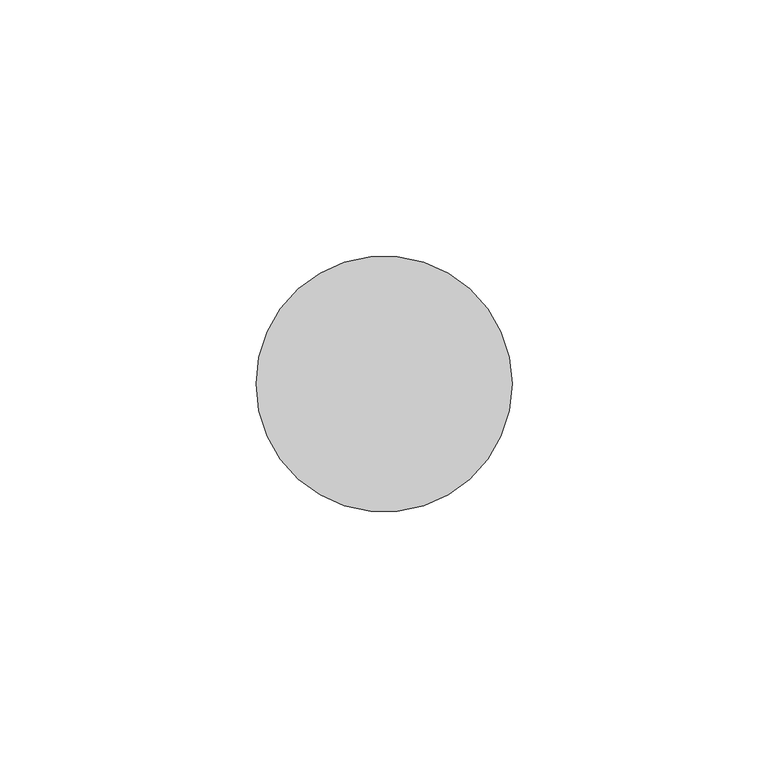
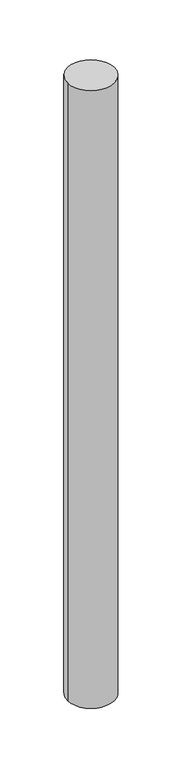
"""IFC4 building model written with IfcOpenShell, lengths in millimetres: member geometry, 圓形豎框 : 25mm 半徑."""

import ifcopenshell
import ifcopenshell.guid

model = None  # the IFC model being written
_history = None  # IfcOwnerHistory: only IFC2X3 demands one
_inside = {}  # id of a spatial element -> (the spatial element, [elements in it])
_under = {}  # id of a project, library or spatial element -> (it, [spatial elements below it])
_declared = {}  # id of a project -> (the project, [libraries it declares])
_typed = {}  # id of a type object -> (the type object, [elements of that type])
_made_of = {}  # id of a material, layer set ... -> (it, [elements and type objects made of it])


def new_model(schema):
    """Start an empty IFC model of exactly this schema.

    Asked for "IFC4X3", IfcOpenShell would pick the latest addendum, in which some entities
    have other attributes; the version numbers below select the first issue.
    IFC2X3 requires an IfcOwnerHistory on every rooted entity: one is made here for all.
    """
    global model, _history
    if schema == "IFC4X3":
        model = ifcopenshell.file(schema_version=(4, 3, 0, 0))
    else:
        model = ifcopenshell.file(schema=schema)
    _inside.clear()
    _under.clear()
    _declared.clear()
    _typed.clear()
    _made_of.clear()
    _history = None
    if model.schema == "IFC2X3":
        org = make("IfcOrganization", Name="unknown")
        user = make(
            "IfcPersonAndOrganization",
            ThePerson=make("IfcPerson", FamilyName="unknown"),
            TheOrganization=org,
        )
        app = make(
            "IfcApplication",
            ApplicationDeveloper=org,
            Version="unknown",
            ApplicationFullName="unknown",
            ApplicationIdentifier="unknown",
        )
        _history = make(
            "IfcOwnerHistory",
            OwningUser=user,
            OwningApplication=app,
            ChangeAction="ADDED",
            CreationDate=0,
        )
    return model


def make(cls, **values):
    """One entity of the class cls with the attributes given. An attribute that is None is left unset."""
    return model.create_entity(
        cls, **{name: value for name, value in values.items() if value is not None}
    )


def rooted(cls, **values):
    """An entity with a GlobalId (a new one), such as an element, a storey or a relation."""
    return make(cls, GlobalId=ifcopenshell.guid.new(), OwnerHistory=_history, **values)


def si_unit(unit_type, name, prefix=None):
    """IfcSIUnit, for example si_unit("LENGTHUNIT", "METRE", prefix="MILLI")."""
    return make("IfcSIUnit", UnitType=unit_type, Prefix=prefix, Name=name)


def assignment(units):
    """IfcUnitAssignment: the units of a project."""
    return None if units is None else make("IfcUnitAssignment", Units=units)


def point(xyz):
    """IfcCartesianPoint."""
    return None if xyz is None else make("IfcCartesianPoint", Coordinates=xyz)


def direction(xyz):
    """IfcDirection."""
    return None if xyz is None else make("IfcDirection", DirectionRatios=xyz)


def frame(location, z_axis=None, x_axis=None):
    """IfcAxis2Placement3D, a coordinate frame: its origin and axes. An axis left out is left unset."""
    return make(
        "IfcAxis2Placement3D",
        Location=point(location),
        Axis=direction(z_axis),
        RefDirection=direction(x_axis),
    )


def frame_2d(location, x_axis=None):
    """IfcAxis2Placement2D, a coordinate frame in the plane: its origin and x axis."""
    return make(
        "IfcAxis2Placement2D", Location=point(location), RefDirection=direction(x_axis)
    )


def origin():
    """The frame at (0, 0, 0) with its axes left unset."""
    return frame((0.0, 0.0, 0.0))


def origin_2d():
    """The frame at (0, 0) in the plane with its x axis left unset."""
    return frame_2d((0.0, 0.0))


def place(relative_to, where):
    """IfcLocalPlacement: puts the frame where relative to a parent placement (None: the world)."""
    return make(
        "IfcLocalPlacement", PlacementRelTo=relative_to, RelativePlacement=where
    )


def context(
    kind, dimensions, precision=None, world=None, true_north=None, identifier=None
):
    """IfcGeometricRepresentationContext, for example the 3D "Model" context."""
    return make(
        "IfcGeometricRepresentationContext",
        ContextIdentifier=identifier,
        ContextType=kind,
        CoordinateSpaceDimension=dimensions,
        Precision=precision,
        WorldCoordinateSystem=world,
        TrueNorth=true_north,
    )


def project(units=None, contexts=None):
    """IfcProject with its units and contexts."""
    return rooted(
        "IfcProject",
        Name="project",
        RepresentationContexts=contexts,
        UnitsInContext=assignment(units),
    )


def spatial(cls, under=None, at=None, **own):
    """A site, building, storey or space (cls), placed at a placement, below another one or the project."""
    s = rooted(cls, ObjectPlacement=at, **own)
    if under is not None:
        _under.setdefault(under.id(), (under, []))[1].append(s)
    return s


def circle_curve(where, radius):
    """IfcCircle in the frame where."""
    return make("IfcCircle", Position=where, Radius=radius)


def trimmed(basis, trim1, trim2, sense, master):
    """IfcTrimmedCurve: the piece of a basis curve between two trims."""
    return make(
        "IfcTrimmedCurve",
        BasisCurve=basis,
        Trim1=trim1,
        Trim2=trim2,
        SenseAgreement=sense,
        MasterRepresentation=master,
    )


def segment(curve, same_sense, transition):
    """IfcCompositeCurveSegment."""
    return make(
        "IfcCompositeCurveSegment",
        Transition=transition,
        SameSense=same_sense,
        ParentCurve=curve,
    )


def composite_curve(segments, self_intersect=None):
    """IfcCompositeCurve: segments joined end to end."""
    return make("IfcCompositeCurve", Segments=segments, SelfIntersect=self_intersect)


def outline(outer, holes=None, kind="AREA"):
    """IfcArbitraryClosedProfileDef: a profile drawn as a closed curve; with holes, ...WithVoids."""
    if holes is None:
        return make("IfcArbitraryClosedProfileDef", ProfileType=kind, OuterCurve=outer)
    return make(
        "IfcArbitraryProfileDefWithVoids",
        ProfileType=kind,
        OuterCurve=outer,
        InnerCurves=holes,
    )


def extrude(swept, where, along, depth):
    """IfcExtrudedAreaSolid: the profile swept, set in the frame where, extruded along a direction by depth."""
    return make(
        "IfcExtrudedAreaSolid",
        SweptArea=swept,
        Position=where,
        ExtrudedDirection=direction(along),
        Depth=depth,
    )


def shape(context_of_items, identifier, shape_type, items):
    """IfcShapeRepresentation: the items that make up one representation, for example the "Body"."""
    return make(
        "IfcShapeRepresentation",
        ContextOfItems=context_of_items,
        RepresentationIdentifier=identifier,
        RepresentationType=shape_type,
        Items=items,
    )


def source(mapping_origin, context_of_items, identifier, shape_type, items):
    """IfcRepresentationMap: a shape defined once, which mapped items show again and again."""
    return make(
        "IfcRepresentationMap",
        MappingOrigin=mapping_origin,
        MappedRepresentation=shape(context_of_items, identifier, shape_type, items),
    )


def transform(
    local_origin,
    x_axis=None,
    y_axis=None,
    z_axis=None,
    scale=None,
    scale2=None,
    scale3=None,
    uniform=True,
):
    """IfcCartesianTransformationOperator3D, or its non-uniform kind. x_axis, y_axis, z_axis: its Axis1, 2, 3."""
    if uniform:
        return make(
            "IfcCartesianTransformationOperator3D",
            Axis1=direction(x_axis),
            Axis2=direction(y_axis),
            LocalOrigin=point(local_origin),
            Scale=scale,
            Axis3=direction(z_axis),
        )
    return make(
        "IfcCartesianTransformationOperator3DnonUniform",
        Axis1=direction(x_axis),
        Axis2=direction(y_axis),
        LocalOrigin=point(local_origin),
        Scale=scale,
        Axis3=direction(z_axis),
        Scale2=scale2,
        Scale3=scale3,
    )


def mapped(mapping_source, mapping_target):
    """IfcMappedItem: shows the shape of a source again, moved by a transform."""
    return make(
        "IfcMappedItem", MappingSource=mapping_source, MappingTarget=mapping_target
    )


def made_of(thing, what):
    """Note that an element or type object is made of a material, layer set ...; save() writes the relation."""
    if what is not None:
        _made_of.setdefault(what.id(), (what, []))[1].append(thing)
    return thing


def element(
    cls,
    number,
    at=None,
    inside=None,
    cuts=None,
    type_object=None,
    material=None,
    context=None,
    identifier="Body",
    shape_type=None,
    held_by="IfcProductDefinitionShape",
    body=None,
    shapes=None,
    **own,
):
    """One element of the class cls, such as IfcWall. Its Tag is "e" and its number.

    at: its placement. inside: the storey or other place that contains it. cuts: it is an
    opening in that element (IfcRelVoidsElement). A single representation is given by context,
    identifier, shape_type and body (its items); several are given by shapes. held_by: the class
    of the entity that holds the representations. save() writes the other relations.
    """
    e = rooted(cls, Tag="e%d" % number, ObjectPlacement=at, **own)
    if body is not None:
        shapes = [shape(context, identifier, shape_type, body)]
    if shapes is not None:
        e.Representation = make(held_by, Representations=shapes)
    if inside is not None:
        _inside.setdefault(inside.id(), (inside, []))[1].append(e)
    if cuts is not None:
        rooted(
            "IfcRelVoidsElement", RelatingBuildingElement=cuts, RelatedOpeningElement=e
        )
    if type_object is not None:
        _typed.setdefault(type_object.id(), (type_object, []))[1].append(e)
    return made_of(e, material)


def aggregate(whole, parts):
    """IfcRelAggregates: a whole, such as a stair, and the parts it consists of."""
    return rooted("IfcRelAggregates", RelatingObject=whole, RelatedObjects=parts)


def save(model, path):
    """Write the relations noted so far, then the file.

    IfcRelAggregates (storeys below a building ...), IfcRelContainedInSpatialStructure (elements
    in a storey), IfcRelDefinesByType, IfcRelAssociatesMaterial and IfcRelDeclares: one each for
    every whole, place, type object, material and project.
    """
    for whole, parts in _under.values():
        aggregate(whole, parts)
    for where, things in _inside.values():
        rooted(
            "IfcRelContainedInSpatialStructure",
            RelatedElements=things,
            RelatingStructure=where,
        )
    for kind, things in _typed.values():
        rooted("IfcRelDefinesByType", RelatedObjects=things, RelatingType=kind)
    for what, things in _made_of.values():
        rooted("IfcRelAssociatesMaterial", RelatedObjects=things, RelatingMaterial=what)
    for by, libraries in _declared.values():
        rooted("IfcRelDeclares", RelatingContext=by, RelatedDefinitions=libraries)
    model.write(path)


def member_bfca14ca(model_context):
    return source(origin(), model_context, "Body", "SweptSolid", [
        extrude(outline(composite_curve([segment(trimmed(circle_curve(origin_2d(), 25.0), [point((25.0, 0.0))], [point((-25.0, 0.0))], False, "CARTESIAN"), True, "CONTINUOUS"), segment(trimmed(circle_curve(origin_2d(), 25.0), [point((-25.0, 0.0))], [point((25.0, 0.0))], False, "CARTESIAN"), True, "CONTINUOUS")], self_intersect=False)), frame((0.0, 0.0, -698.0461177), z_axis=(0.0, 0.0, 1.0), x_axis=(1.0, 0.0, 0.0)), (0.0, 0.0, 1.0), 698.0461177),
    ])


if __name__ == "__main__":
    model = new_model("IFC4")
    model_context = context("Model", 3, world=origin())
    ifc_project = project(units=[si_unit("LENGTHUNIT", "METRE", prefix="MILLI")], contexts=[model_context])
    site = spatial("IfcSite", under=ifc_project)
    building = spatial("IfcBuilding", under=site)
    placement = place(None, origin())
    member_shape = member_bfca14ca(model_context)
    element("IfcMember", 1, ObjectType="圓形豎框 : 25mm 半徑", at=placement, inside=building, context=model_context, shape_type="MappedRepresentation", body=[
        mapped(member_shape, transform((0.0, 0.0, 0.0), x_axis=(1.0, 0.0, 0.0), y_axis=(0.0, 1.0, 0.0), z_axis=(0.0, 0.0, 1.0))),
    ])
    save(model, "model.ifc")
